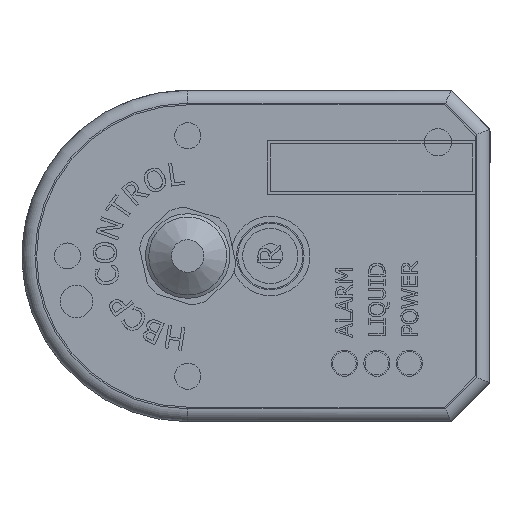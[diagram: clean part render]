
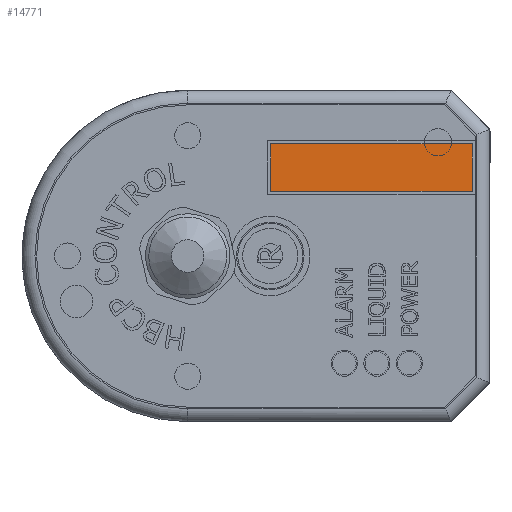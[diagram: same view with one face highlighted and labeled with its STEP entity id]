
A CAD part, front view. The second image highlights one B-rep face of the part: STEP entity #14771.
In plain terms, the highlighted planar face has unit normal (0, -1, 0).
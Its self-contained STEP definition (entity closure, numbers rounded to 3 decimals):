
#14732=CARTESIAN_POINT('',(28.25,-95.117,13.6));
#14733=DIRECTION('',(0.,-1.0,0.));
#14734=DIRECTION('',(0.0,0.0,1.0));
#14735=AXIS2_PLACEMENT_3D('',#14732,#14733,#14734);
#14736=PLANE('',#14735);
#14737=CARTESIAN_POINT('',(43.75,-95.117,17.25));
#14738=VERTEX_POINT('',#14737);
#14739=CARTESIAN_POINT('',(43.75,-95.117,9.95));
#14740=VERTEX_POINT('',#14739);
#14741=CARTESIAN_POINT('',(43.75,-95.117,17.25));
#14742=DIRECTION('',(0.0,0.0,-1.0));
#14743=VECTOR('',#14742,7.3);
#14744=LINE('',#14741,#14743);
#14745=EDGE_CURVE('',#14738,#14740,#14744,.T.);
#14746=ORIENTED_EDGE('',*,*,#14745,.F.);
#14747=CARTESIAN_POINT('',(12.75,-95.117,17.25));
#14748=VERTEX_POINT('',#14747);
#14749=CARTESIAN_POINT('',(12.75,-95.117,17.25));
#14750=DIRECTION('',(1.0,0.,0.));
#14751=VECTOR('',#14750,31.);
#14752=LINE('',#14749,#14751);
#14753=EDGE_CURVE('',#14748,#14738,#14752,.T.);
#14754=ORIENTED_EDGE('',*,*,#14753,.F.);
#14755=CARTESIAN_POINT('',(12.75,-95.117,9.95));
#14756=VERTEX_POINT('',#14755);
#14757=CARTESIAN_POINT('',(12.75,-95.117,9.95));
#14758=DIRECTION('',(0.0,0.0,1.0));
#14759=VECTOR('',#14758,7.3);
#14760=LINE('',#14757,#14759);
#14761=EDGE_CURVE('',#14756,#14748,#14760,.T.);
#14762=ORIENTED_EDGE('',*,*,#14761,.F.);
#14763=CARTESIAN_POINT('',(43.75,-95.117,9.95));
#14764=DIRECTION('',(-1.0,0.,0.));
#14765=VECTOR('',#14764,31.);
#14766=LINE('',#14763,#14765);
#14767=EDGE_CURVE('',#14740,#14756,#14766,.T.);
#14768=ORIENTED_EDGE('',*,*,#14767,.F.);
#14769=EDGE_LOOP('',(#14746,#14754,#14762,#14768));
#14770=FACE_OUTER_BOUND('',#14769,.T.);
#14771=ADVANCED_FACE('',(#14770),#14736,.T.);
